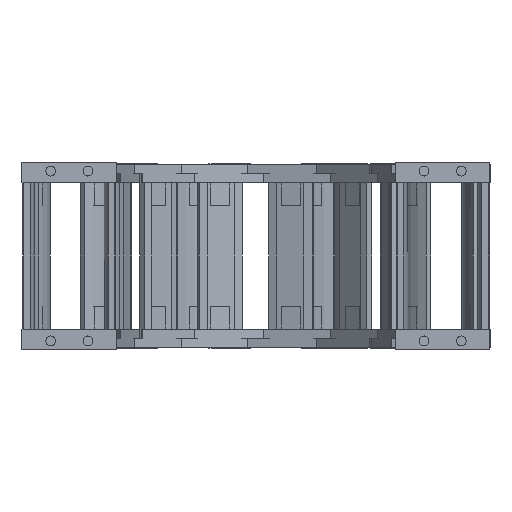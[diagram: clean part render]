
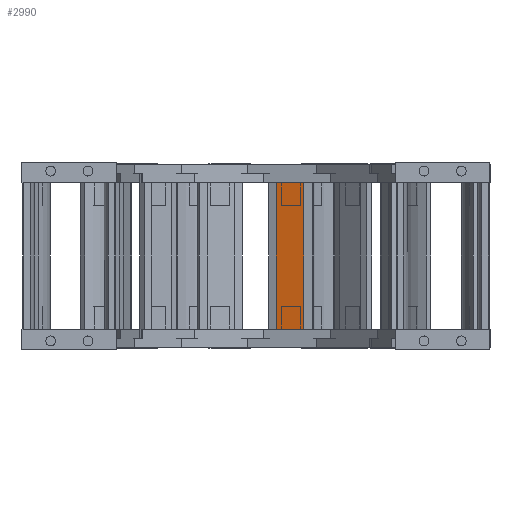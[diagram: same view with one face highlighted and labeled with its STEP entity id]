
A CAD part, left-side view. The second image highlights one B-rep face of the part: STEP entity #2990.
In plain terms, the highlighted planar face has unit normal (-0.967, 0.255, 0) as drawn and (0, -1, 0) by its records, which use the part's own axes.
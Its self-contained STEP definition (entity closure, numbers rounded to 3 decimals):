
#2823=DIRECTION('',(0.,0.,-1.));
#2824=VECTOR('',#2823,117.4);
#2825=CARTESIAN_POINT('',(-11.5,-72.,37.5));
#2826=LINE('',#2825,#2824);
#2852=DIRECTION('',(1.,0.,0.));
#2853=VECTOR('',#2852,23.);
#2854=CARTESIAN_POINT('',(-11.5,-72.,37.5));
#2855=LINE('',#2854,#2853);
#2909=DIRECTION('',(-1.,0.,0.));
#2910=VECTOR('',#2909,23.);
#2911=CARTESIAN_POINT('',(11.5,-72.,-79.9));
#2912=LINE('',#2911,#2910);
#2937=DIRECTION('',(0.,0.,-1.));
#2938=VECTOR('',#2937,117.4);
#2939=CARTESIAN_POINT('',(11.5,-72.,37.5));
#2940=LINE('',#2939,#2938);
#2957=CARTESIAN_POINT('',(11.5,-72.,-79.9));
#2958=VERTEX_POINT('',#2957);
#2959=CARTESIAN_POINT('',(-11.5,-72.,-79.9));
#2960=VERTEX_POINT('',#2959);
#2969=CARTESIAN_POINT('',(11.5,-72.,37.5));
#2970=VERTEX_POINT('',#2969);
#2973=CARTESIAN_POINT('',(-11.5,-72.,37.5));
#2974=VERTEX_POINT('',#2973);
#2975=CARTESIAN_POINT('',(15.5,-72.,-79.9));
#2976=DIRECTION('',(0.,1.,0.));
#2977=DIRECTION('',(-1.,0.,0.));
#2978=AXIS2_PLACEMENT_3D('',#2975,#2976,#2977);
#2979=PLANE('',#2978);
#2981=ORIENTED_EDGE('',*,*,#2980,.F.);
#2983=ORIENTED_EDGE('',*,*,#2982,.T.);
#2985=ORIENTED_EDGE('',*,*,#2984,.T.);
#2987=ORIENTED_EDGE('',*,*,#2986,.T.);
#2988=EDGE_LOOP('',(#2981,#2983,#2985,#2987));
#2989=FACE_OUTER_BOUND('',#2988,.F.);
#2990=ADVANCED_FACE('',(#2989),#2979,.F.);
#2980=EDGE_CURVE('',#2974,#2960,#2826,.T.);
#2982=EDGE_CURVE('',#2974,#2970,#2855,.T.);
#2984=EDGE_CURVE('',#2970,#2958,#2940,.T.);
#2986=EDGE_CURVE('',#2958,#2960,#2912,.T.);
